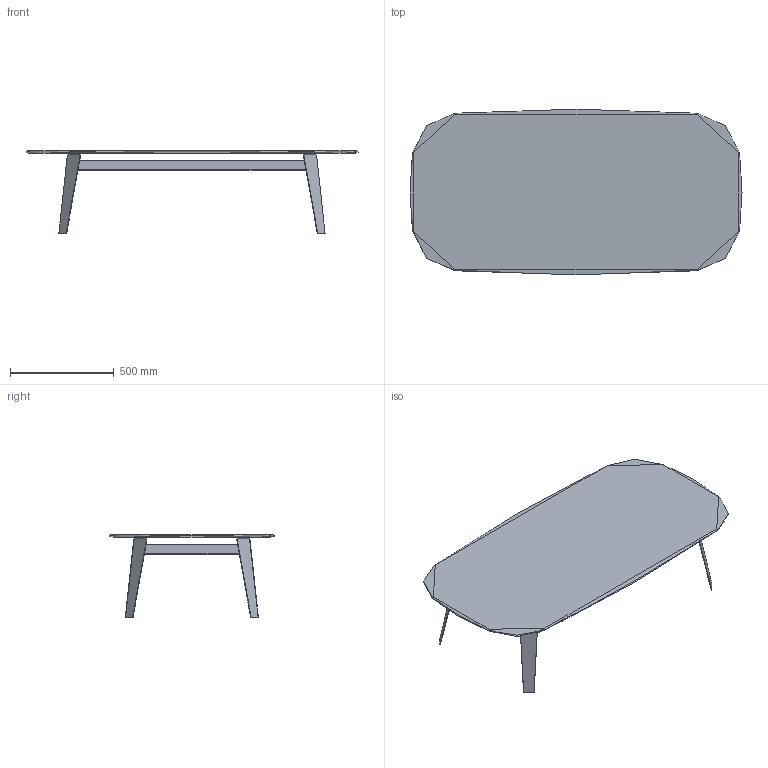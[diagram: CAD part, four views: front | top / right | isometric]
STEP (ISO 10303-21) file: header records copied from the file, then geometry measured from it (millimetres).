
FILE_DESCRIPTION(/* description */ (''),/* implementation_level */ '2;1');
FILE_NAME(/* name */ 'MAGMA_~2',/* time_stamp */ '2018-06-12T10:08:10+02:00',/* author */ (''),/* organization */ (''),/* preprocessor_version */ 'ST-DEVELOPER v16.5',/* originating_system */ '',/* authorisation */ '');
FILE_SCHEMA (('CONFIG_CONTROL_DESIGN'));
Length unit declared in the file: millimetre
Products named in the file (1): Document
Bounding box: 1596.48 x 796.49 x 397.74 mm (x, y, z)
Volume: 22524348.7 mm3; surface area: 3210473.3 mm2
Topology: 9 solids, 28 shells, 157 faces, 388 edges, 264 vertices
Faces by surface type: bspline 132, plane 25
Entity records: 17143 total; most frequent: CARTESIAN_POINT 14696, ORIENTED_EDGE 684, EDGE_CURVE 380, B_SPLINE_CURVE_WITH_KNOTS 294, VERTEX_POINT 260, ADVANCED_FACE 157, FACE_OUTER_BOUND 157, EDGE_LOOP 157
